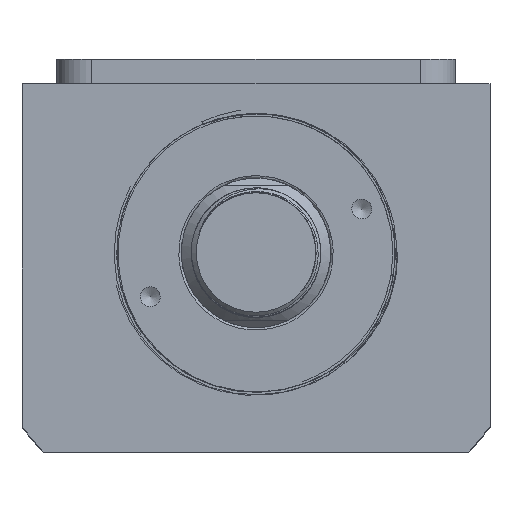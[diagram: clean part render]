
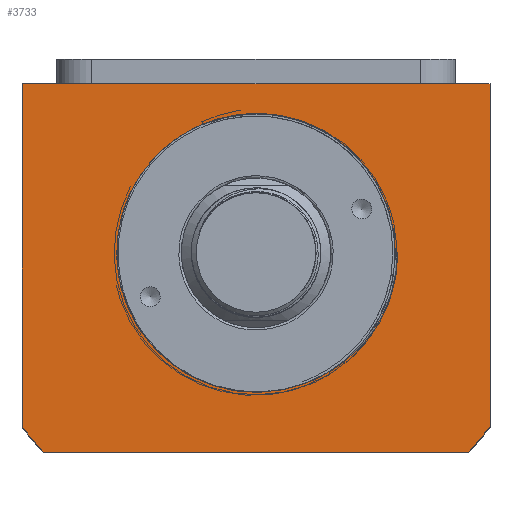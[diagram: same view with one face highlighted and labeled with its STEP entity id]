
A CAD part, top view. The second image highlights one B-rep face of the part: STEP entity #3733.
In plain terms, the highlighted planar face has unit normal (0, 0, 1).
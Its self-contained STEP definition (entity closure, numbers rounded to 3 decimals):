
#3405=B_SPLINE_CURVE_WITH_KNOTS('',3,(#16264,#16265,#16266,#16267,#16268,
#16269,#16270,#16271,#16272,#16273),.UNSPECIFIED.,.F.,.F.,(4,2,2,2,4),(0.,
0.25,0.5,0.75,1.),.UNSPECIFIED.);
#3733=ADVANCED_FACE('',(#4571,#4572),#4209,.T.);
#4209=PLANE('',#13045);
#4571=FACE_BOUND('',#4768,.T.);
#4572=FACE_BOUND('',#4769,.T.);
#4768=EDGE_LOOP('',(#7490,#7491,#7492));
#4769=EDGE_LOOP('',(#7493,#7494,#7495,#7496,#7497,#7498));
#5335=LINE('',#15562,#6282);
#5364=LINE('',#16207,#6311);
#5377=LINE('',#16239,#6324);
#5385=LINE('',#16254,#6332);
#5388=LINE('',#16261,#6335);
#6282=VECTOR('',#13500,1.);
#6311=VECTOR('',#13645,1.);
#6324=VECTOR('',#13678,1.);
#6332=VECTOR('',#13688,1.);
#6335=VECTOR('',#13699,1.);
#7490=ORIENTED_EDGE('',*,*,#11528,.F.);
#7491=ORIENTED_EDGE('',*,*,#11529,.T.);
#7492=ORIENTED_EDGE('',*,*,#11530,.T.);
#7493=ORIENTED_EDGE('',*,*,#11515,.T.);
#7494=ORIENTED_EDGE('',*,*,#11523,.T.);
#7495=ORIENTED_EDGE('',*,*,#11511,.T.);
#7496=ORIENTED_EDGE('',*,*,#11496,.T.);
#7497=ORIENTED_EDGE('',*,*,#11468,.T.);
#7498=ORIENTED_EDGE('',*,*,#11392,.T.);
#10288=VERTEX_POINT('',#15532);
#10303=VERTEX_POINT('',#15561);
#10377=VERTEX_POINT('',#16146);
#10402=VERTEX_POINT('',#16208);
#10407=VERTEX_POINT('',#16229);
#10410=VERTEX_POINT('',#16238);
#10417=VERTEX_POINT('',#16262);
#10418=VERTEX_POINT('',#16263);
#10419=VERTEX_POINT('',#16274);
#11392=EDGE_CURVE('',#10288,#10303,#5335,.T.);
#11468=EDGE_CURVE('',#10377,#10288,#12893,.T.);
#11496=EDGE_CURVE('',#10402,#10377,#5364,.T.);
#11511=EDGE_CURVE('',#10407,#10402,#12905,.T.);
#11515=EDGE_CURVE('',#10303,#10410,#5377,.T.);
#11523=EDGE_CURVE('',#10410,#10407,#5385,.T.);
#11528=EDGE_CURVE('',#10417,#10418,#5388,.T.);
#11529=EDGE_CURVE('',#10417,#10419,#3405,.T.);
#11530=EDGE_CURVE('',#10419,#10418,#12908,.T.);
#12893=CIRCLE('',#13015,58.5);
#12905=CIRCLE('',#13037,58.5);
#12908=CIRCLE('',#13044,28.);
#13015=AXIS2_PLACEMENT_3D('',#16149,#13596,#13597);
#13037=AXIS2_PLACEMENT_3D('',#16232,#13671,#13672);
#13044=AXIS2_PLACEMENT_3D('',#16275,#13700,#13701);
#13045=AXIS2_PLACEMENT_3D('',#16276,#13702,#13703);
#13500=DIRECTION('',(0.,1.,0.));
#13596=DIRECTION('',(0.,0.,1.));
#13597=DIRECTION('',(1.,0.,0.));
#13645=DIRECTION('',(1.,0.,0.));
#13671=DIRECTION('',(0.,0.,1.));
#13672=DIRECTION('',(1.,0.,0.));
#13678=DIRECTION('',(-1.,0.,0.));
#13688=DIRECTION('',(0.,-1.,0.));
#13699=DIRECTION('',(-1.,0.,0.));
#13700=DIRECTION('',(0.,0.,-1.));
#13701=DIRECTION('',(1.,0.,0.));
#13702=DIRECTION('',(0.,0.,1.));
#13703=DIRECTION('',(-1.,0.,0.));
#15532=CARTESIAN_POINT('',(47.,-34.832,50.));
#15561=CARTESIAN_POINT('',(47.,34.,50.));
#15562=CARTESIAN_POINT('',(47.,34.,50.));
#16146=CARTESIAN_POINT('',(42.688,-40.,50.));
#16149=CARTESIAN_POINT('',(0.,0.,50.));
#16207=CARTESIAN_POINT('',(42.688,-40.,50.));
#16208=CARTESIAN_POINT('',(-42.688,-40.,50.));
#16229=CARTESIAN_POINT('',(-47.,-34.832,50.));
#16232=CARTESIAN_POINT('',(0.,0.,50.));
#16238=CARTESIAN_POINT('',(-47.,34.,50.));
#16239=CARTESIAN_POINT('',(-47.,34.,50.));
#16254=CARTESIAN_POINT('',(-47.,-34.832,50.));
#16261=CARTESIAN_POINT('',(0.,0.,50.));
#16262=CARTESIAN_POINT('',(28.495,0.,50.));
#16263=CARTESIAN_POINT('',(28.,0.,50.));
#16264=CARTESIAN_POINT('',(28.495,0.,50.));
#16265=CARTESIAN_POINT('',(28.456,-2.841,50.));
#16266=CARTESIAN_POINT('',(27.987,-5.656,50.));
#16267=CARTESIAN_POINT('',(26.264,-10.986,50.));
#16268=CARTESIAN_POINT('',(24.983,-13.561,50.));
#16269=CARTESIAN_POINT('',(21.771,-18.15,50.));
#16270=CARTESIAN_POINT('',(19.795,-20.234,50.));
#16271=CARTESIAN_POINT('',(15.367,-23.675,50.));
#16272=CARTESIAN_POINT('',(12.892,-25.066,50.));
#16273=CARTESIAN_POINT('',(10.232,-26.064,50.));
#16274=CARTESIAN_POINT('',(10.232,-26.064,50.));
#16275=CARTESIAN_POINT('',(0.,0.,50.));
#16276=CARTESIAN_POINT('',(0.,0.,50.));
